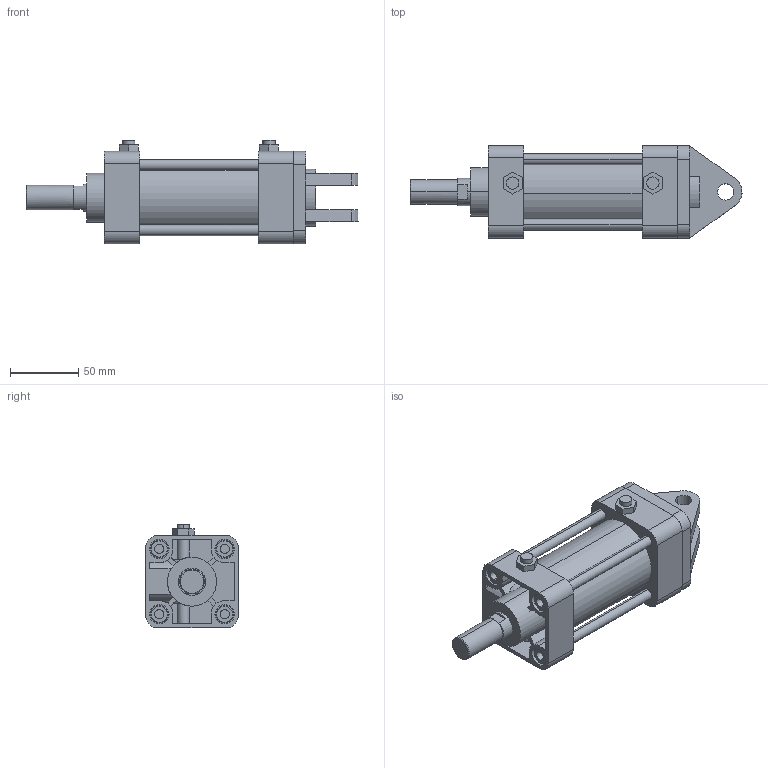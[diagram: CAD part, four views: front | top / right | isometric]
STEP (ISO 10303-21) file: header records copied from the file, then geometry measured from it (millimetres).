
FILE_DESCRIPTION (( 'STEP AP203' ), '1' );
FILE_NAME ('KG2-50-50-W.STEP', '2016-04-01T08:14:02', ( '' ), ( '' ), 'SwSTEP 2.0', 'SolidWorks 2014', '' );
FILE_SCHEMA (( 'CONFIG_CONTROL_DESIGN' ));
Length unit declared in the file: millimetre
Products named in the file (7): KG2-50-50-W; KG2-50-After; K-50-W; KGLH2-50-50
Assembly tree (16 placements, depth 2):
  KG2-50-50-W
    KG2-50-After
    KGLH2-50-50
    (unnamed)
    (unnamed)  x4
    (unnamed)  x8
    K-50-W
Bounding box: 243.96 x 68 x 76.3 mm (x, y, z)
Volume: 506551.6 mm3; surface area: 117841.3 mm2
Topology: 16 solids, 20 shells, 368 faces, 867 edges, 554 vertices
Faces by surface type: plane 161, cylinder 149, torus 32, cone 26
Entity records: 9476 total; most frequent: CARTESIAN_POINT 1720, DIRECTION 1479, ORIENTED_EDGE 1354, EDGE_CURVE 677, AXIS2_PLACEMENT_3D 547, VERTEX_POINT 444, LINE 385, VECTOR 385
